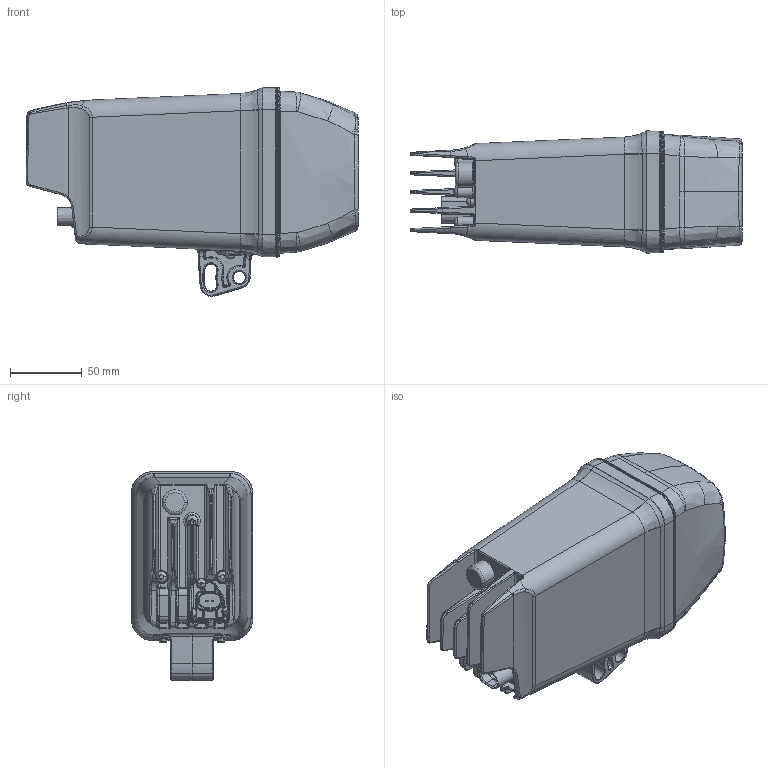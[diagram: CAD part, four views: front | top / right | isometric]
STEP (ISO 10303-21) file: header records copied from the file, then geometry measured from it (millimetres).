
FILE_DESCRIPTION(('CATIA V5 STEP Exchange','CAx-IF Rec.Pracs.--- Model Styling and Organization---1.5--- 2016-08-15','CAx-IF Rec.Pracs.---Supplemental Geometry---1.0---2011-11-01','CAx-IF Rec.Pracs.--- Composite Materials ---1.1---2010-07-15'),'2;1');
FILE_NAME('E:\tmp\ddx\2011206\HELLA_3D_data_Q90_LED_compact_reverse_lamp_2ZR-996-284.stp','2022-01-18T07:36:54+00:00',('none'),('none'),'CATIA Version 5-6 Release 2020 SP3 HF9','CATIA V5 STEP AP214 Edition 3 v2','none');
FILE_SCHEMA(('AUTOMOTIVE_DESIGN { 1 0 10303 214 3 1 1 1 }'));
Products named in the file (1): 10002648510_D10_001
Bounding box: 231.5 x 84.99 x 145.88 mm (x, y, z)
Volume: 1499827 mm3; surface area: 136956 mm2
Topology: 3 solids, 3 shells, 1211 faces, 3012 edges, 1763 vertices
Faces by surface type: bspline 429, cylinder 352, plane 241, torus 93, cone 68, sphere 24, revolution 4
Entity records: 60849 total; most frequent: CARTESIAN_POINT 37770, ORIENTED_EDGE 5908, EDGE_CURVE 2954, DIRECTION 2720, VERTEX_POINT 1763, B_SPLINE_CURVE_WITH_KNOTS 1547, AXIS2_PLACEMENT_3D 1259, EDGE_LOOP 1229
